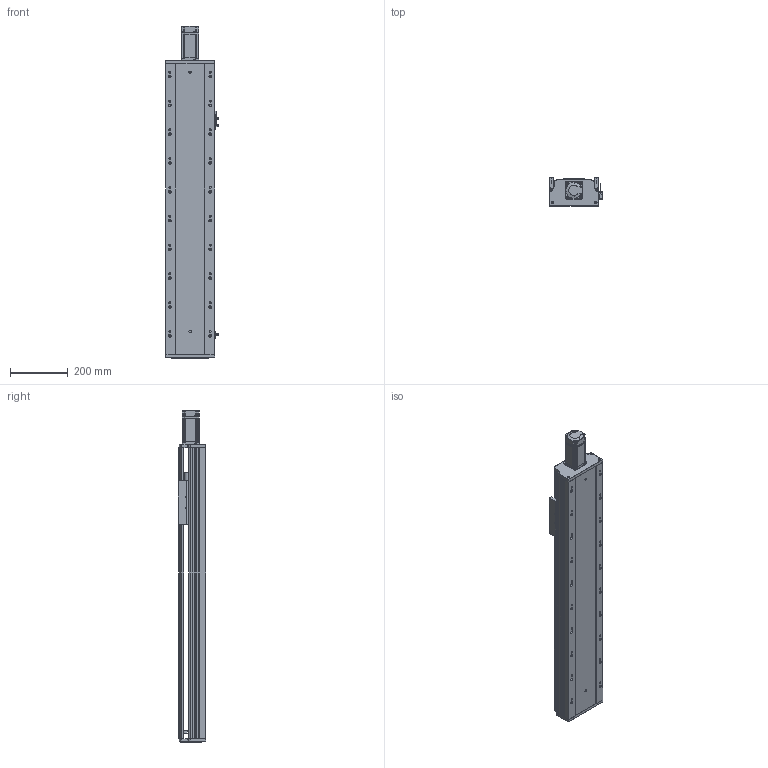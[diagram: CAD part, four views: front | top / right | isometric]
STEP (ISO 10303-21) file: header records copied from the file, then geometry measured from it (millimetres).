
FILE_DESCRIPTION (( 'STEP AP203' ), '1' );
FILE_NAME ('RY170-L2020-300-MK.SLDASM_700.step', '2021-02-20T03:50:54', ( '盈信电脑' ), ( '东莞市道滘镇水果街19号' ), 'SwSTEP 2.0', 'SolidWorks 2012', '' );
FILE_SCHEMA (( 'CONFIG_CONTROL_DESIGN' ));
Length unit declared in the file: millimetre
Products named in the file (12): 覜茼ん672; RY170綴裔啣; 侂狟400W侜督萇儂; 15; RY170-300倰第裔啣-MK_700; RY170-300倰第菁釱-MK_700; RY170臏賑輸20佪裝蹟譫; 滅袉蝶18-28; RY170外置感应片(200共用）; 滅袉蝶18-10; RY170ヶ醱裔啣; RY170-L2020-300-MK.SLDASM_700
Assembly tree (13 placements, depth 3):
  RY170-L2020-300-MK.SLDASM_700
    RY170-300倰第菁釱-MK_700
    RY170-300倰第裔啣-MK_700
    RY170臏賑輸20佪裝蹟譫
    侂狟400W侜督萇儂
      15
    RY170綴裔啣
    覜茼ん672  x3
    RY170外置感应片(200共用）
    RY170ヶ醱裔啣
    滅袉蝶18-28
    滅袉蝶18-10
Bounding box: 183.7 x 97 x 1152.5 mm (x, y, z)
Volume: 5444303.9 mm3; surface area: 1732438.2 mm2
Topology: 12 solids, 12 shells, 2184 faces, 6332 edges, 4096 vertices
Faces by surface type: plane 1166, cylinder 818, cone 171, bspline 29
Entity records: 70449 total; most frequent: CARTESIAN_POINT 16019, ORIENTED_EDGE 11460, DIRECTION 10737, EDGE_CURVE 5730, VERTEX_POINT 3776, VECTOR 3625, LINE 3625, AXIS2_PLACEMENT_3D 3556
